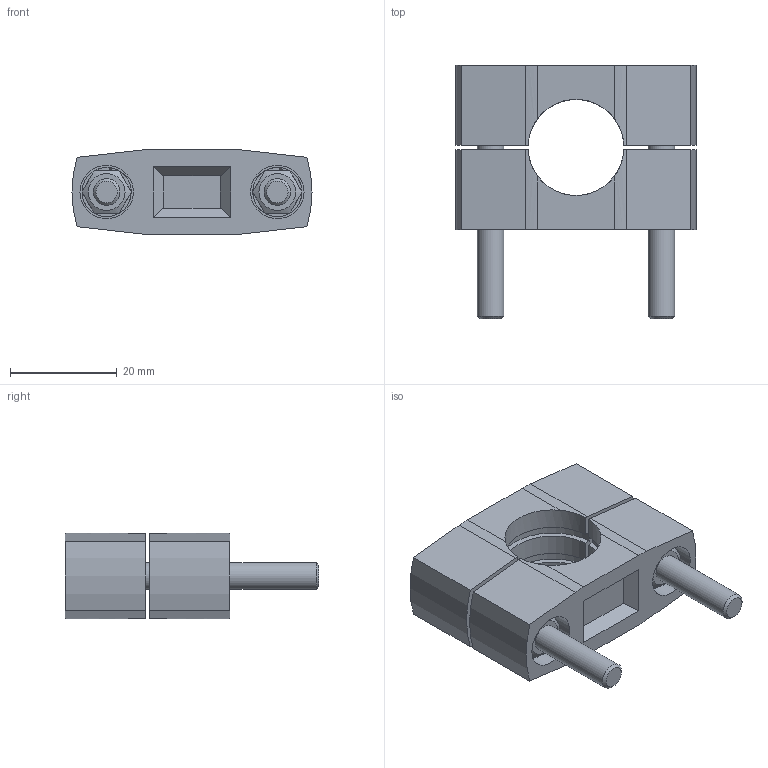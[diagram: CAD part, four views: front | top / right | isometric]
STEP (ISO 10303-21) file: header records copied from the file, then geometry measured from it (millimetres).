
FILE_DESCRIPTION(/* description */ (''),/* implementation_level */ '2;1');
FILE_NAME(/* name */ 'C:\#Vault-WorkDir\Konstruktions-Dokumente\Projekte\Zubehör allgemein\153-00016_MC 18 Halteschelle FM 18_0.stp',/* time_stamp */ '2015-07-16T10:25:33+02:00',/* author */ ('sandra.stahl'),/* organization */ (''),/* preprocessor_version */ 'ST-DEVELOPER v15.2',/* originating_system */ 'Autodesk Inventor 2014',/* authorisation */ '');
FILE_SCHEMA (('AUTOMOTIVE_DESIGN { 1 0 10303 214 3 1 1 }'));
Length unit declared in the file: millimetre
Products named in the file (1): GH-ENG-0011816
Bounding box: 45 x 47.5 x 16 mm (x, y, z)
Volume: 14848.2 mm3; surface area: 10065.9 mm2
Topology: 8 solids, 8 shells, 138 faces, 328 edges, 214 vertices
Faces by surface type: plane 82, cylinder 40, cone 12, torus 4
Full cylindrical faces by diameter (mm): 4.134 x2, 5 x2, 6 x4, 8.5 x2, 10 x4
Entity records: 3984 total; most frequent: CARTESIAN_POINT 755, DIRECTION 630, ORIENTED_EDGE 588, EDGE_CURVE 294, AXIS2_PLACEMENT_3D 241, VERTEX_POINT 210, EDGE_LOOP 188, LINE 148
